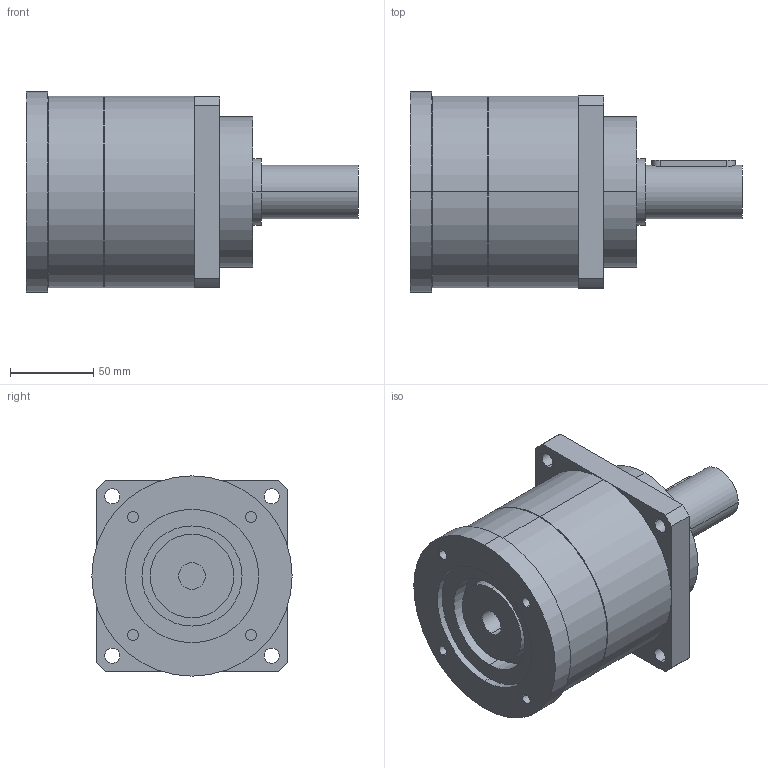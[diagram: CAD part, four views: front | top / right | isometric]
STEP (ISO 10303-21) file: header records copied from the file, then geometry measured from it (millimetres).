
FILE_DESCRIPTION(('CoCreate Modeling STEP Export'),'2;1');
FILE_NAME('GPT120_ig-3-4-5-7-10_32_B5A_15.87_P05.stp','2015-02-04T16:07:40',(''),(''),'CoCreate Modeling STEP processor for AP214 (Solid Model)','CoCreate Modeling 16.00C 25-Feb-2009 (C) Parametric Technology GmbH','');
FILE_SCHEMA(('AUTOMOTIVE_DESIGN { 1 0 10303 214 1 1 1 1 }'));
Length unit declared in the file: millimetre
Products named in the file (2): GPT120_ig-3-4-5-7-10_32_B5A_15.87_P05
Assembly tree (1 placements, depth 2):
  GPT120_ig-3-4-5-7-10_32_B5A_15.87_P05
    GPT120_ig-3-4-5-7-10_32_B5A_15.87_P05
Bounding box: 199 x 120 x 120 mm (x, y, z)
Volume: 1394387.6 mm3; surface area: 93002 mm2
Topology: 1 solids, 1 shells, 75 faces, 190 edges, 131 vertices
Faces by surface type: cylinder 44, plane 27, cone 4
Entity records: 2375 total; most frequent: CARTESIAN_POINT 724, ORIENTED_EDGE 380, DIRECTION 280, EDGE_CURVE 190, VERTEX_POINT 131, AXIS2_PLACEMENT_3D 105, EDGE_LOOP 97, FACE_OUTER_BOUND 75
